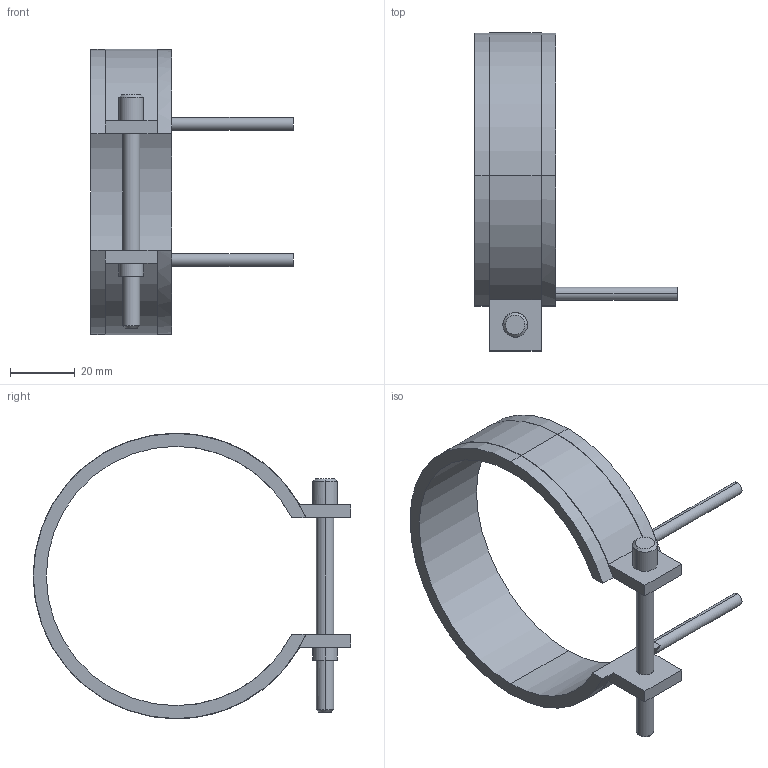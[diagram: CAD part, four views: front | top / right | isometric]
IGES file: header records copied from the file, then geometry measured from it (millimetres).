
Start section: START RECORD GO HERE.
Global section: file name: 14080025.igs; native system: DASSAULT SYSTEMES CATIA V5 R20 - www.3ds.com; preprocessor: CATIA Version 5 Release 20 ; author: Utente; organization: NB04-ASUS; date: 20210403.100645; units: millimetre
Bounding box: 62.5 x 98.1 x 88.2 mm (x, y, z)
Surface area: 16630.4 mm2 (no closed solid volume)
Topology: 0 solids, 0 shells, 45 faces, 232 edges, 232 vertices
Faces by surface type: revolution 28, plane 17
